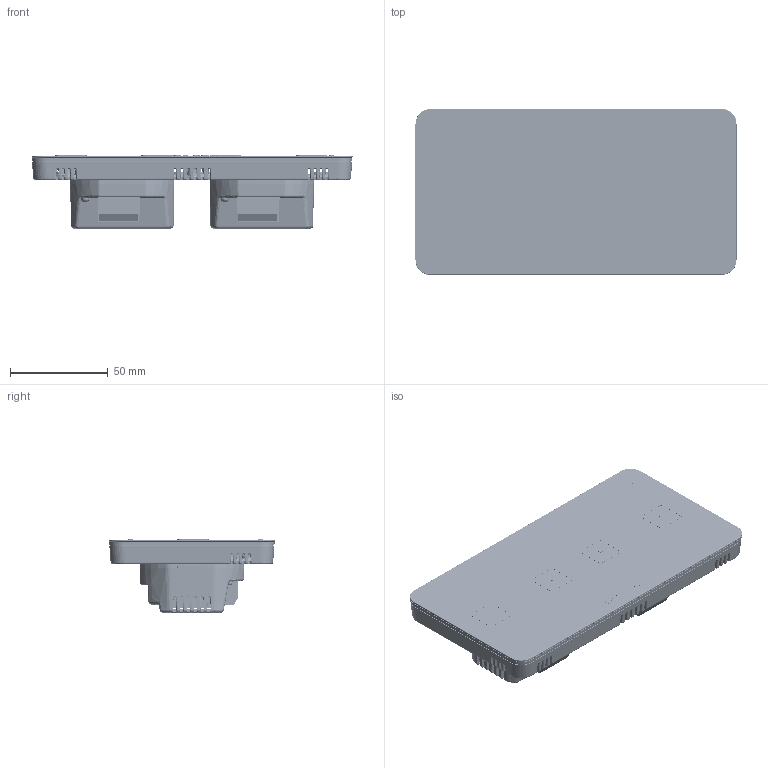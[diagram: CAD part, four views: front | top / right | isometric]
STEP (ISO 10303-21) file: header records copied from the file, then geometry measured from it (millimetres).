
FILE_DESCRIPTION(/* description */ (''),/* implementation_level */ '2;1');
FILE_NAME(/* name */ 'WSS22.step',/* time_stamp */ '2026-01-28T17:47:30+01:00',/* author */ (''),/* organization */ (''),/* preprocessor_version */ 'ST-DEVELOPER v20.1',/* originating_system */ 'Autodesk Translation Framework v14.24.0.0',/* authorisation */ '');
FILE_SCHEMA (('AUTOMOTIVE_DESIGN { 1 0 10303 214 3 1 1 }'));
Products named in the file (21): 2; OP-1398-ramkowiec; IRM-02-05; Relpol duży 12v; gora laczki1; DIN ISO 7049 - C-H ST2.2 x 6.5 - C - H; DIN ISO 7049 - C-H ST2.2 x 9.5 - C - H; DIN ISO 7050 - C-H ST2.2 x 9.5 - C - H; oslona G; OSLONA G1; spod1; WYSWIETLACZ DEDEYK BIG; blacha OP-1020-E-2; ISO 7049 - C-H ST 2.2 x 6.5 - C - H; PODSWIETLENIE; plytka puszka1.2; OP-1399_A; łączka 5; WSS22; LOGO; Komponent38
Assembly tree (49 placements, depth 3):
  2
    PODSWIETLENIE  x6
    OP-1398-ramkowiec  x2
      plytka puszka1.2
      IRM-02-05
      Relpol duży 12v
      gora laczki1
      łączka 5
    DIN ISO 7049 - C-H ST2.2 x 6.5 - C - H  x6
    ISO 7049 - C-H ST 2.2 x 6.5 - C - H  x4
    DIN ISO 7049 - C-H ST2.2 x 9.5 - C - H
    DIN ISO 7050 - C-H ST2.2 x 9.5 - C - H
    oslona G
    OSLONA G1
    spod1
    WYSWIETLACZ DEDEYK BIG
    OP-1399_A  x2
    blacha OP-1020-E-2
    łączka 5  x10
    plytka puszka1.2
    WSS22
      LOGO
    Komponent38
Bounding box: 164.15 x 84.87 x 37.4 mm (x, y, z)
Volume: 159772.5 mm3; surface area: 205022.4 mm2
Topology: 100 solids, 100 shells, 18417 faces, 52338 edges, 34275 vertices
Faces by surface type: cone 9988, plane 4433, bspline 1817, cylinder 1589, torus 507, sphere 83
Full cylindrical faces by diameter (mm): 0.9 x18, 1 x6, 1.5 x2, 1.8 x6, 2.2 x18, 2.4 x4, 2.702 x18, 3 x18, 3.8 x1, 4 x6, 4.6 x4, 8.2 x3
Entity records: 258543 total; most frequent: CARTESIAN_POINT 78644, ORIENTED_EDGE 37372, DIRECTION 34635, EDGE_CURVE 18686, VERTEX_POINT 13095, AXIS2_PLACEMENT_3D 11783, LINE 11069, VECTOR 11069
